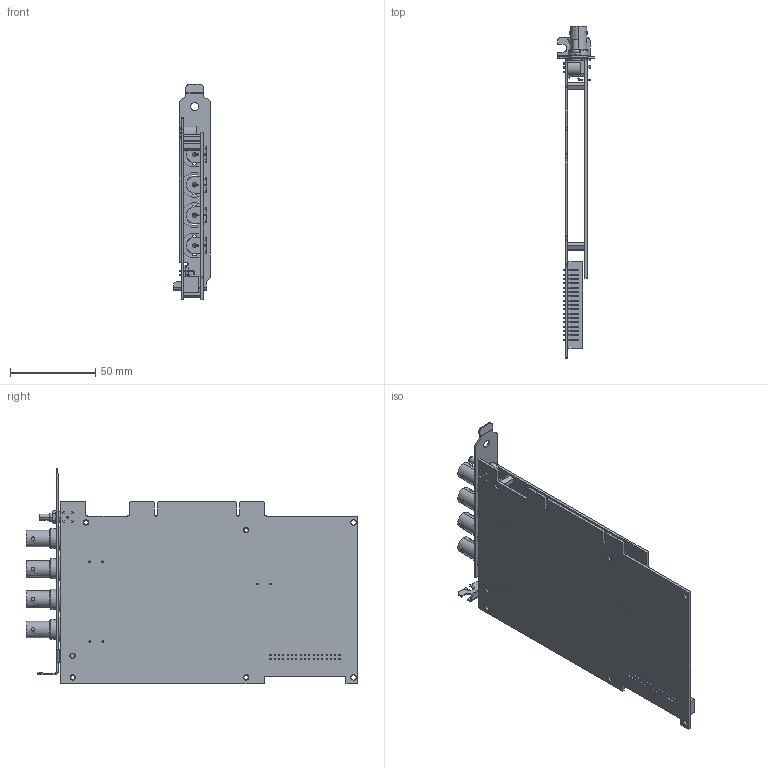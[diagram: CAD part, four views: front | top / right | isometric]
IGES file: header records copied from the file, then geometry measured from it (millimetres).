
Start section:  PTC IGES file: cd_pci-4462.igs
Global section: file name: cd_pci-4462.igs; native system: Pro/ENGINEER by Parametric Technology Corporation; preprocessor: 2006300; author: scarrasc; organization: Unknown; date: 20080923.121703; units: inch
Bounding box: 21.59 x 194.5 x 126.22 mm (x, y, z)
Surface area: 76738.3 mm2 (no closed solid volume)
Topology: 0 solids, 0 shells, 1165 faces, 6102 edges, 6102 vertices
Faces by surface type: bspline 774, revolution 391
